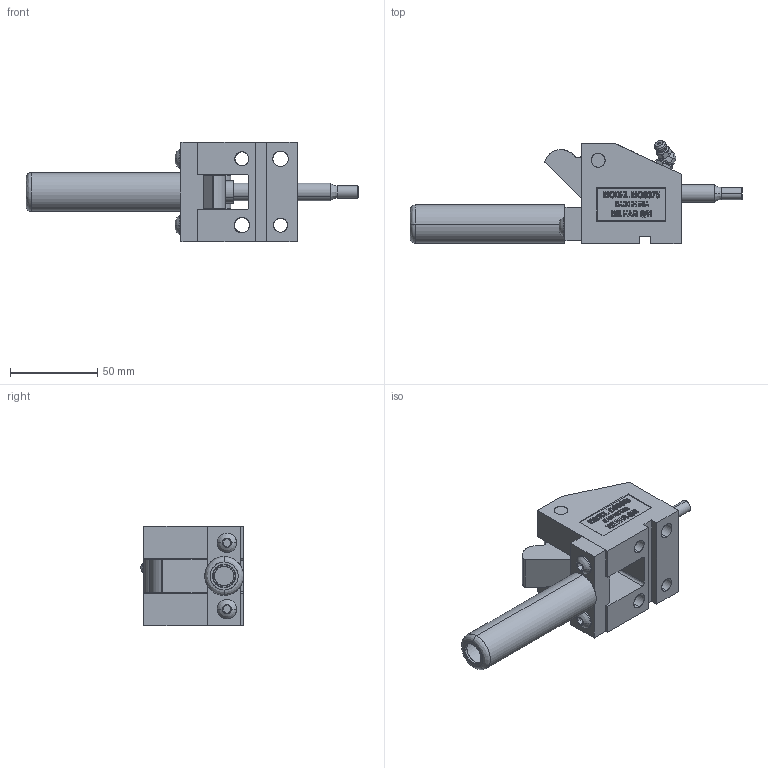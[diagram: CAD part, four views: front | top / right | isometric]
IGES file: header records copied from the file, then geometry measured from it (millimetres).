
Start section: SolidWorks IGES file using analytic representation for surfaces
Global section: file name: Y:\JIM SOLIDWORKS\ENGDESIGN-W-SOLIDWORKS\PROJECTS\MOS375-C\MOS375-C.IGS; native system: SolidWorks 2006 by SolidWorks Corporation; preprocessor: SolidWorks 2006 by SolidWorks Corporation; author: Jim; date: 081225.194115; units: inch
Bounding box: 190.5 x 59.06 x 57.15 mm (x, y, z)
Surface area: 55197.5 mm2 (no closed solid volume)
Topology: 0 solids, 0 shells, 599 faces, 7590 edges, 7588 vertices
Faces by surface type: bspline 480, revolution 119
